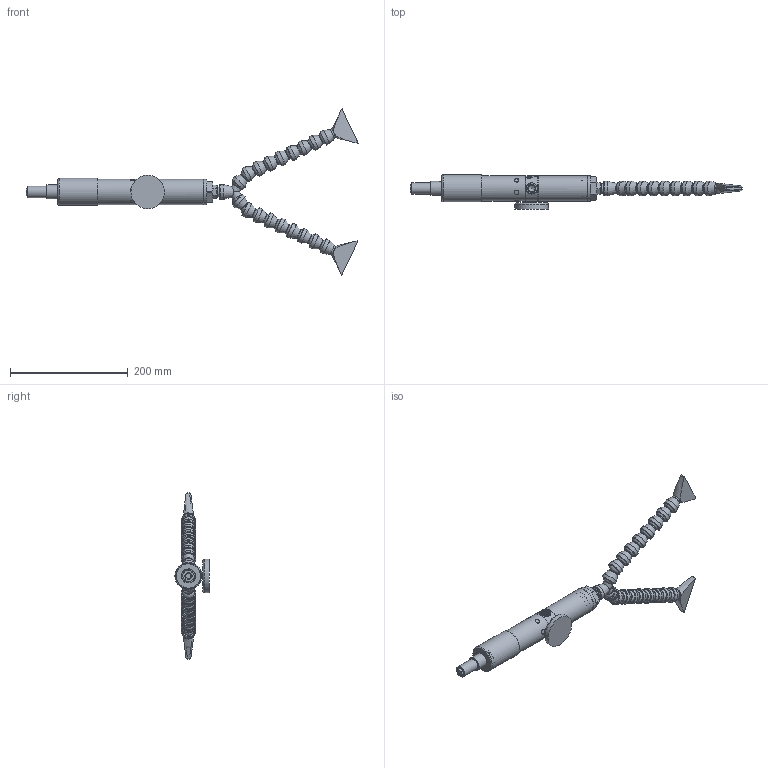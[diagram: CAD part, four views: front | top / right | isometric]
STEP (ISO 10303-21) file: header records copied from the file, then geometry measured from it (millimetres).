
FILE_DESCRIPTION (( 'STEP AP214' ), '1' );
FILE_NAME ('SIMP - CS_15 YR_Q1200-3.STEP', '2023-06-02T11:44:02', ( '' ), ( '' ), 'SwSTEP 2.0', 'SolidWorks 2021', '' );
FILE_SCHEMA (( 'AUTOMOTIVE_DESIGN' ));
Length unit declared in the file: millimetre
Products named in the file (1): SIMP - CS_15 YR_Q1200-3
Bounding box: 564.5 x 57.97 x 282.39 mm (x, y, z)
Volume: 505118 mm3; surface area: 148199 mm2
Topology: 25 solids, 30 shells, 1021 faces, 2491 edges, 1598 vertices
Faces by surface type: plane 351, bspline 298, cylinder 230, cone 76, torus 66
Full cylindrical faces by diameter (mm): 3.2 x1, 3.3 x1, 4 x1, 6 x1, 6.5 x1, 7 x1, 8 x6, 9 x1, 9.4 x1, 9.5 x1, 10 x1, 11.8 x7, 12 x2, 12.2 x1, 12.3 x16, 12.95 x2, 13.16 x1, 14.2 x1, 16 x2, 16.2 x1, 16.3 x16, 16.95 x2, 19 x2, 19.3 x1, 20.8 x2, 21 x17, 23.9 x1, 24.8 x2, 25 x17, 35.8 x1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
Entity records: 63644 total; most frequent: CARTESIAN_POINT 32496, ORIENTED_EDGE 4304, DIRECTION 3130, EDGE_CURVE 2152, VERTEX_POINT 1522, EDGE_LOOP 1394, AXIS2_PLACEMENT_3D 1344, FACE_OUTER_BOUND 1198
